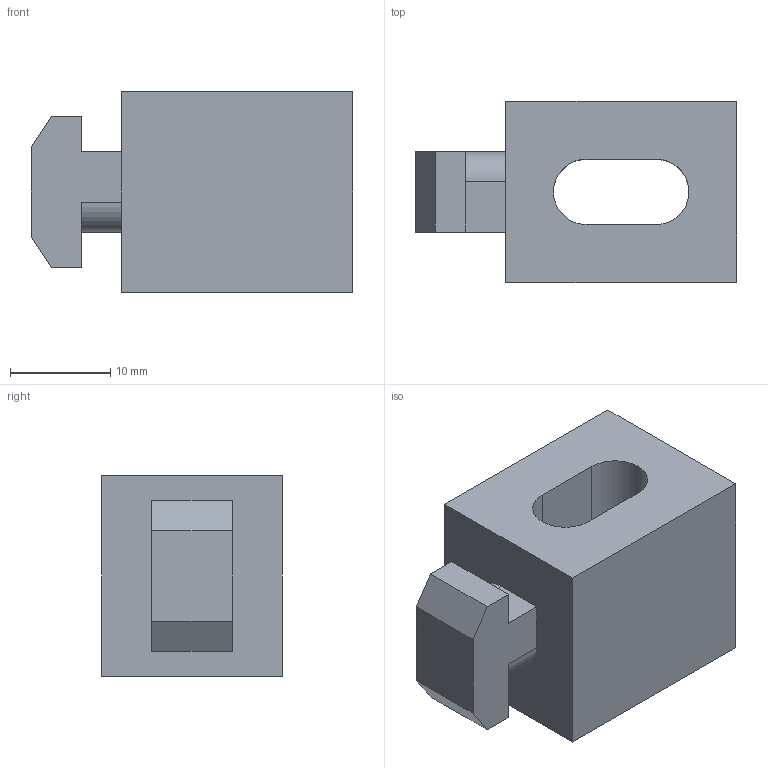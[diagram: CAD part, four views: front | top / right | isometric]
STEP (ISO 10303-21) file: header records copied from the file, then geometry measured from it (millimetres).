
FILE_DESCRIPTION (( 'STEP AP203' ), '1' );
FILE_NAME ('90-CE-PM-40E-A.STEP', '2015-07-09T08:33:23', ( '' ), ( '' ), 'SwSTEP 2.0', 'SolidWorks 2013', '' );
FILE_SCHEMA (( 'CONFIG_CONTROL_DESIGN' ));
Length unit declared in the file: millimetre
Products named in the file (1): 90-CE-PM-40E-A
Bounding box: 32 x 18 x 20 mm (x, y, z)
Volume: 6892.3 mm3; surface area: 3702.7 mm2
Topology: 1 solids, 1 shells, 34 faces, 90 edges, 60 vertices
Faces by surface type: plane 26, cylinder 8
Entity records: 1135 total; most frequent: CARTESIAN_POINT 185, ORIENTED_EDGE 180, DIRECTION 176, EDGE_CURVE 90, VECTOR 74, LINE 74, VERTEX_POINT 60, AXIS2_PLACEMENT_3D 51
